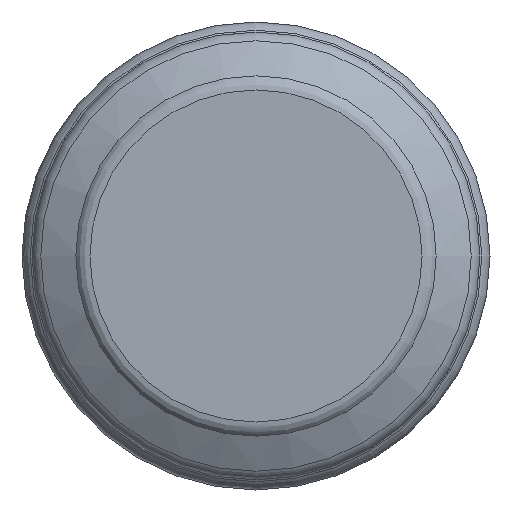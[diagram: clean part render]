
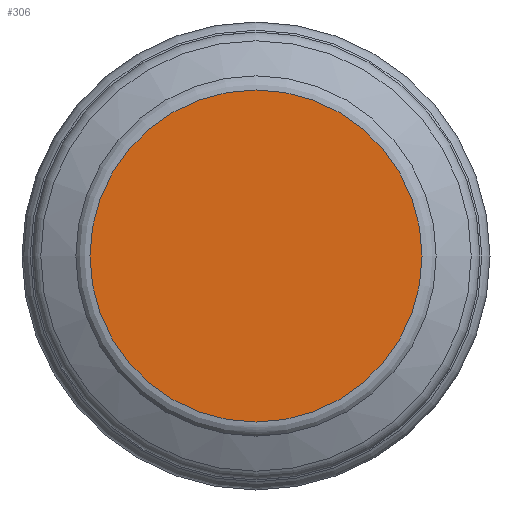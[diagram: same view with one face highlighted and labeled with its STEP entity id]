
A CAD part, front view. The second image highlights one B-rep face of the part: STEP entity #306.
In plain terms, the highlighted planar face has unit normal (0, -1, 0).
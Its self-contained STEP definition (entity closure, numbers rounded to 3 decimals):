
#82=FACE_OUTER_BOUND('',#125,.T.);
#125=EDGE_LOOP('',(#268));
#148=CIRCLE('',#335,2.483);
#176=VERTEX_POINT('',#505);
#204=EDGE_CURVE('',#176,#176,#148,.T.);
#268=ORIENTED_EDGE('',*,*,#204,.T.);
#287=PLANE('',#363);
#306=ADVANCED_FACE('',(#82),#287,.T.);
#335=AXIS2_PLACEMENT_3D('',#506,#399,#400);
#363=AXIS2_PLACEMENT_3D('',#578,#455,#456);
#399=DIRECTION('center_axis',(0.,-1.,0.));
#400=DIRECTION('ref_axis',(0.,0.,-1.));
#455=DIRECTION('center_axis',(0.,-1.,0.));
#456=DIRECTION('ref_axis',(0.,0.,-1.));
#505=CARTESIAN_POINT('',(0.,0.,-2.483));
#506=CARTESIAN_POINT('Origin',(0.,0.,0.));
#578=CARTESIAN_POINT('Origin',(0.,0.,0.));
